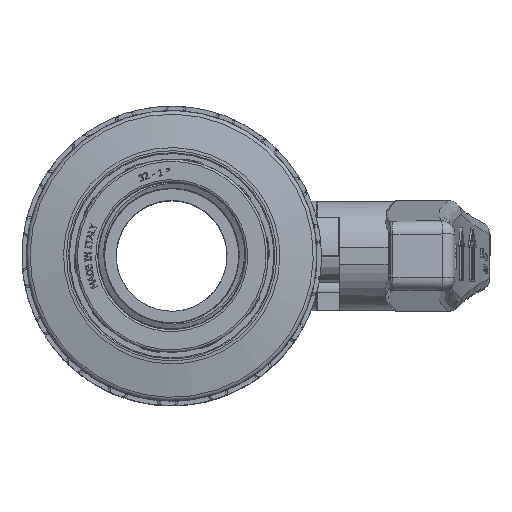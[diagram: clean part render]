
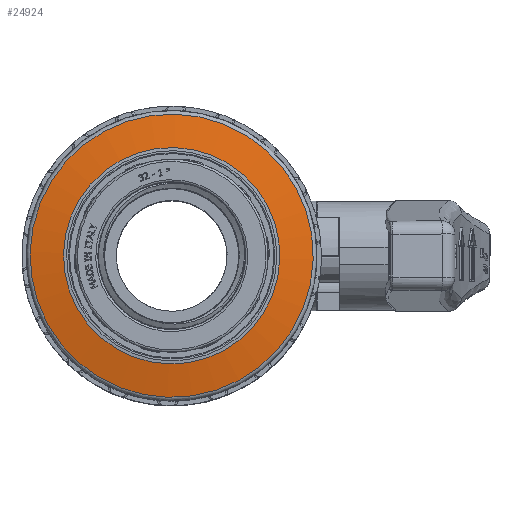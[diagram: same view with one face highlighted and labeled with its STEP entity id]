
A CAD part, top view. The second image highlights one B-rep face of the part: STEP entity #24924.
In plain terms, the highlighted conical face has half-angle 80 degrees and reference radius 28.4 mm.
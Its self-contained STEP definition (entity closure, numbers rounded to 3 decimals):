
#213=CONICAL_SURFACE('',#26669,28.4,1.396);
#498=FACE_BOUND('',#4721,.T.);
#857=CIRCLE('',#26667,31.924);
#859=CIRCLE('',#26670,24.395);
#3185=FACE_OUTER_BOUND('',#4720,.T.);
#4720=EDGE_LOOP('',(#20074));
#4721=EDGE_LOOP('',(#20075));
#11364=VERTEX_POINT('',#50671);
#11366=VERTEX_POINT('',#50676);
#14468=EDGE_CURVE('',#11364,#11364,#857,.T.);
#14470=EDGE_CURVE('',#11366,#11366,#859,.T.);
#20074=ORIENTED_EDGE('',*,*,#14470,.F.);
#20075=ORIENTED_EDGE('',*,*,#14468,.F.);
#24924=ADVANCED_FACE('',(#3185,#498),#213,.T.);
#26667=AXIS2_PLACEMENT_3D('',#50672,#30669,#30670);
#26669=AXIS2_PLACEMENT_3D('',#50675,#30673,#30674);
#26670=AXIS2_PLACEMENT_3D('',#50677,#30675,#30676);
#30669=DIRECTION('center_axis',(1.,0.,0.));
#30670=DIRECTION('ref_axis',(0.,-1.,0.));
#30673=DIRECTION('center_axis',(1.,0.,0.));
#30674=DIRECTION('ref_axis',(0.,1.,0.));
#30675=DIRECTION('center_axis',(-1.,0.,0.));
#30676=DIRECTION('ref_axis',(0.,-1.,0.));
#50671=CARTESIAN_POINT('',(1.388,31.924,0.));
#50672=CARTESIAN_POINT('Origin',(1.388,0.,0.));
#50675=CARTESIAN_POINT('Origin',(0.767,0.,0.));
#50676=CARTESIAN_POINT('',(0.061,24.395,0.));
#50677=CARTESIAN_POINT('Origin',(0.061,0.,0.));
